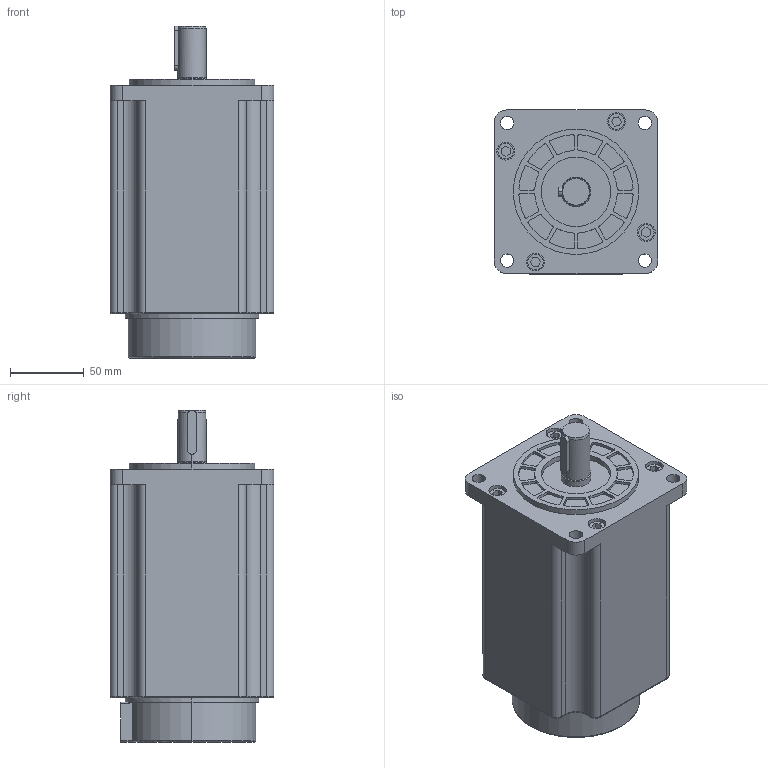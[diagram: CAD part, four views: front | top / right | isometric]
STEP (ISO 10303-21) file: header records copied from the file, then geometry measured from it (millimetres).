
FILE_DESCRIPTION (( 'STEP AP214' ), '1' );
FILE_NAME ('FHB31118祭輛萇儂誘欶.STEP', '2019-08-14T02:38:21', ( 'hzmg' ), ( '' ), 'SwSTEP 2.0', 'SolidWorks 2016', '' );
FILE_SCHEMA (( 'AUTOMOTIVE_DESIGN' ));
Length unit declared in the file: millimetre
Products named in the file (1): FHB31118祭輛萇儂誘欶
Bounding box: 111 x 111 x 225 mm (x, y, z)
Volume: 1911815.9 mm3; surface area: 105194.7 mm2
Topology: 1 solids, 1 shells, 276 faces, 702 edges, 456 vertices
Faces by surface type: cylinder 155, plane 102, torus 15, cone 4
Entity records: 8547 total; most frequent: DIRECTION 1569, CARTESIAN_POINT 1531, ORIENTED_EDGE 1404, EDGE_CURVE 702, AXIS2_PLACEMENT_3D 600, VERTEX_POINT 456, VECTOR 369, LINE 369
